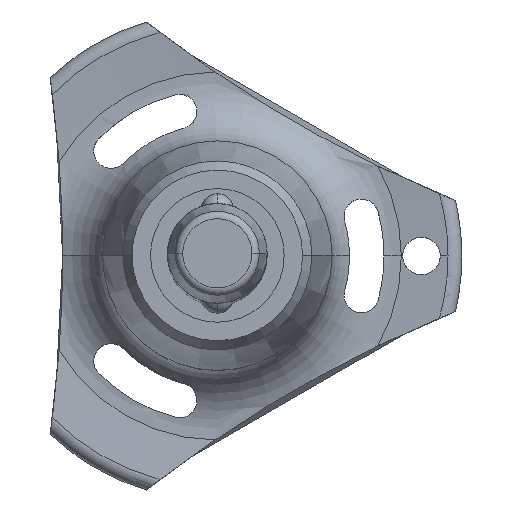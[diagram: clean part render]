
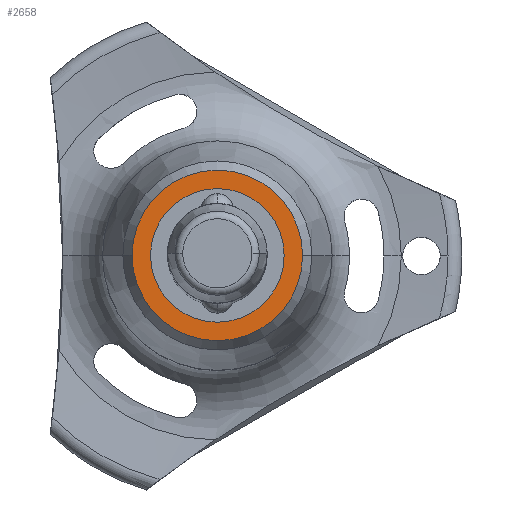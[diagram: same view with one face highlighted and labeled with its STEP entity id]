
A CAD part, top view. The second image highlights one B-rep face of the part: STEP entity #2658.
In plain terms, the highlighted planar face has unit normal (0, 0, 1).
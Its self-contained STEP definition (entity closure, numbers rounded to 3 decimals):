
#91 = VERTEX_POINT ( 'NONE', #1528 ) ;
#142 = DIRECTION ( 'NONE',  ( -1., 0., 0. ) ) ;
#186 = CIRCLE ( 'NONE', #1452, 6.834 ) ;
#391 = DIRECTION ( 'NONE',  ( -1., 0., 0. ) ) ;
#402 = FACE_BOUND ( 'NONE', #888, .T. ) ;
#417 = AXIS2_PLACEMENT_3D ( 'NONE', #1801, #2450, #1625 ) ;
#449 = DIRECTION ( 'NONE',  ( -1., 0., 0. ) ) ;
#468 = CIRCLE ( 'NONE', #872, 5.354 ) ;
#495 = CARTESIAN_POINT ( 'NONE',  ( -6.834, 0., -90.6 ) ) ;
#646 = DIRECTION ( 'NONE',  ( 0., 0., -1. ) ) ;
#801 = VERTEX_POINT ( 'NONE', #495 ) ;
#805 = CARTESIAN_POINT ( 'NONE',  ( 0., 0., -90.6 ) ) ;
#820 = CARTESIAN_POINT ( 'NONE',  ( 5.354, 0., -90.6 ) ) ;
#822 = ORIENTED_EDGE ( 'NONE', *, *, #1099, .T. ) ;
#841 = DIRECTION ( 'NONE',  ( 1., 0., 0. ) ) ;
#872 = AXIS2_PLACEMENT_3D ( 'NONE', #1513, #1114, #449 ) ;
#888 = EDGE_LOOP ( 'NONE', ( #1896, #822 ) ) ;
#967 = ORIENTED_EDGE ( 'NONE', *, *, #1560, .F. ) ;
#1036 = AXIS2_PLACEMENT_3D ( 'NONE', #2331, #646, #391 ) ;
#1090 = CIRCLE ( 'NONE', #1036, 5.354 ) ;
#1099 = EDGE_CURVE ( 'NONE', #1735, #91, #1090, .T. ) ;
#1114 = DIRECTION ( 'NONE',  ( 0., 0., -1. ) ) ;
#1261 = PLANE ( 'NONE',  #2138 ) ;
#1271 = DIRECTION ( 'NONE',  ( 0., 0., -1. ) ) ;
#1399 = VERTEX_POINT ( 'NONE', #1525 ) ;
#1452 = AXIS2_PLACEMENT_3D ( 'NONE', #805, #1271, #142 ) ;
#1513 = CARTESIAN_POINT ( 'NONE',  ( 0., 0., -90.6 ) ) ;
#1525 = CARTESIAN_POINT ( 'NONE',  ( 6.834, 0., -90.6 ) ) ;
#1528 = CARTESIAN_POINT ( 'NONE',  ( -5.354, 0., -90.6 ) ) ;
#1560 = EDGE_CURVE ( 'NONE', #1399, #801, #186, .T. ) ;
#1625 = DIRECTION ( 'NONE',  ( -1., 0., 0. ) ) ;
#1735 = VERTEX_POINT ( 'NONE', #820 ) ;
#1801 = CARTESIAN_POINT ( 'NONE',  ( 0., 0., -90.6 ) ) ;
#1896 = ORIENTED_EDGE ( 'NONE', *, *, #2538, .T. ) ;
#2013 = CIRCLE ( 'NONE', #417, 6.834 ) ;
#2089 = ORIENTED_EDGE ( 'NONE', *, *, #2308, .F. ) ;
#2133 = CARTESIAN_POINT ( 'NONE',  ( 0., 5.354, -90.6 ) ) ;
#2138 = AXIS2_PLACEMENT_3D ( 'NONE', #2133, #2791, #841 ) ;
#2308 = EDGE_CURVE ( 'NONE', #801, #1399, #2013, .T. ) ;
#2331 = CARTESIAN_POINT ( 'NONE',  ( 0., 0., -90.6 ) ) ;
#2450 = DIRECTION ( 'NONE',  ( 0., 0., -1. ) ) ;
#2510 = EDGE_LOOP ( 'NONE', ( #2089, #967 ) ) ;
#2538 = EDGE_CURVE ( 'NONE', #91, #1735, #468, .T. ) ;
#2569 = FACE_OUTER_BOUND ( 'NONE', #2510, .T. ) ;
#2658 = ADVANCED_FACE ( 'NONE', ( #402, #2569 ), #1261, .T. ) ;
#2791 = DIRECTION ( 'NONE',  ( 0., 0., 1. ) ) ;
